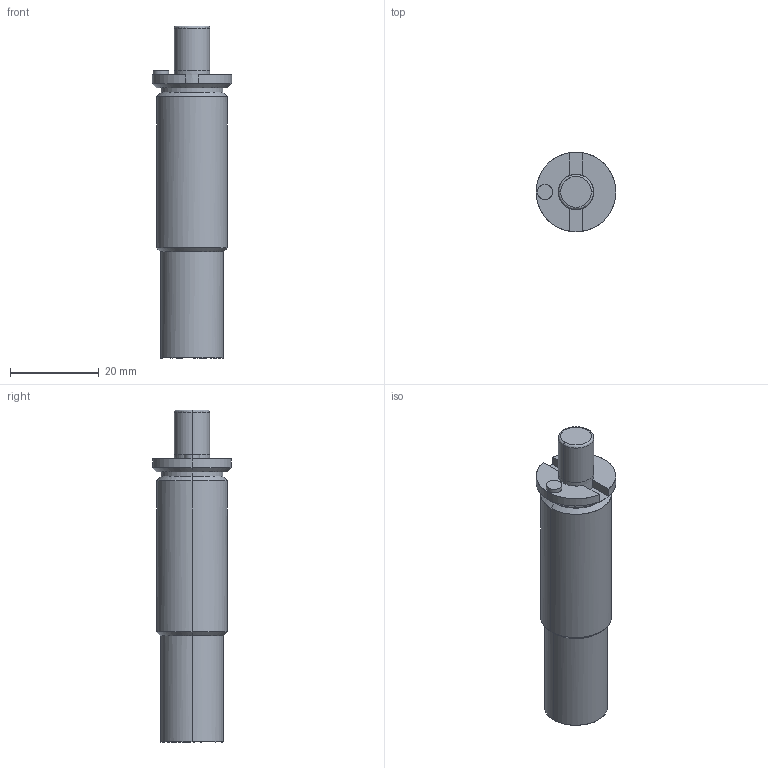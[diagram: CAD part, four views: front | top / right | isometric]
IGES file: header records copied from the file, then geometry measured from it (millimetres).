
Global section: file name: E:\UnigraphicsGraphicData\MISUMI_PRESS-PARTS\IGES\3d_mgsb16-10_04561_r00.igs; native system: NX V5.0; preprocessor: UGS NX IGES V5.0; author: MISUMI; date: 20110105.161433; units: millimetre
Bounding box: 18 x 17.97 x 75 mm (x, y, z)
Surface area: 3929 mm2 (no closed solid volume)
Topology: 0 solids, 0 shells, 36 faces, 200 edges, 200 vertices
Faces by surface type: bspline 36
